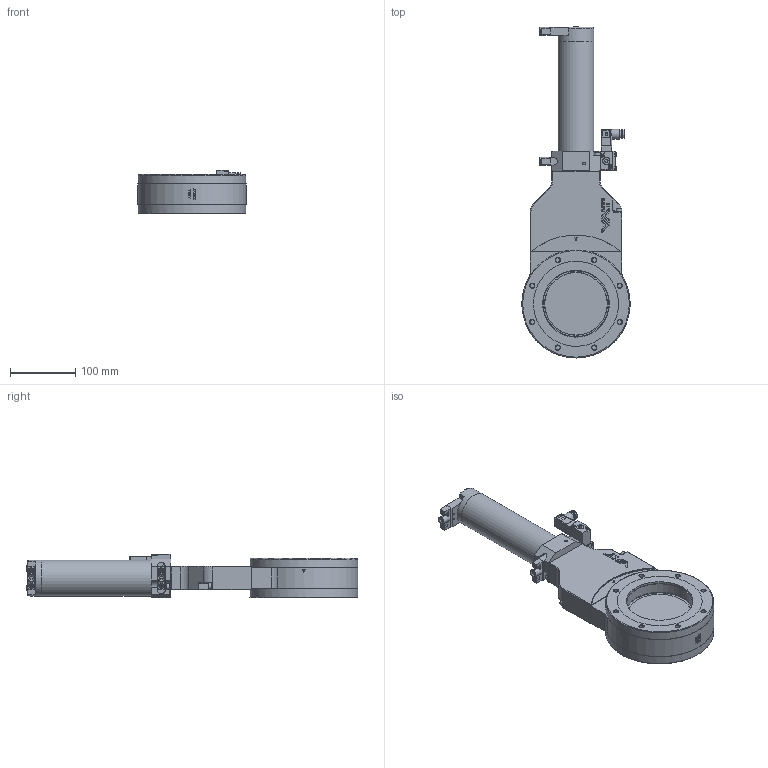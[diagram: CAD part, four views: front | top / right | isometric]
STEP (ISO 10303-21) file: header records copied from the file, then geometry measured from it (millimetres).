
FILE_DESCRIPTION(/* description */ (''),/* implementation_level */ '2;1');
FILE_NAME(/* name */ '1743098264_203.stp',/* time_stamp */ '2020-02-26T15:52:17+01:00',/* author */ (''),/* organization */ (''),/* preprocessor_version */ 'ST-DEVELOPER v16',/* originating_system */ 'SIEMENS PLM Software NX 11.0',/* authorisation */ '');
FILE_SCHEMA (('AP203_CONFIGURATION_CONTROLLED_3D_DESIGN_OF_MECHANICAL_PARTS_AND_ASSEMBLIES_MIM_LF { 1 0 10303 403 2 1 2}'));
Length unit declared in the file: millimetre
Products named in the file (52): N-8406-013_3.2; N-8406-013_2.1; 1013022; 258528; 258513.3; 258525; 73662-01.1; 202839_1.2; N-6121-039.1; N-6099-417.1; 92838-01_1.2; N-6121-027.2; 251093.3; 80477-01.1; N-7100-005_2.1; 92838-01_4.2; 80478-01.1; N-6195-007.2; 93115-01.1; 87105-01.1; 467882; 437235; 77379-01.1; T-9001-055.1; N-6016-478.2; 488704; 236270.2; 251289.1; 488875; N-7557-016_1.1; N-7557-018.1; N-7557-016_2.1; N-6024-524.1; N-5018-005.1; N-6005-466.1; N-6005-459.1; N-6005-452.1; n-6134-407; 246014.7; 245959.8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
Assembly tree (71 placements, depth 5):
  248454
    94800-r1.7_NX-ARRAGMNTKONFIG1
      N-5018-005.1  x2
      N-6024-524.1  x6
      N-7557-016_2.1
      N-7557-018.1
      N-7557-016_1.1
      N-7557-016_3.1_MODELNX-ARRAGMNTArrangement 1
        437235
        467882
    245959.8
    246014.7
    n-6134-407  x2
    N-6005-452.1
    N-6005-459.1
    N-6005-466.1  x2
    251089_NX-ARRAGMNT01_CLOSE HO Innenteile+Stange unterdrueckt
      488875  x2
      87090-R1.22_NX-ARRAGMNTunbetaetigt Hub 0mm (mit Feder)
        87105-01.1
        93115-01.1
        N-6195-007.2
        80478-01.1
        92838-01_4.2
        N-7100-005_2.1
        80477-01.1
      251092.4
        251093.3
        N-6121-027.2  x2
      251289.1
      87090-R1.22_NX-ARRAGMNTclose_213913 Hub 2,95mm (mit Feder)
        87105-01.1
        93115-01.1
        N-6195-007.2
        80478-01.1
        N-7100-005_2.1
        80477-01.1
        92838-01_1.2
      236270.2
      488704
    78855-r1.9_NX-ARRAGMNTLM mit allen Teilen, Produktionsmodell PCA  x2
      N-6016-478.2
      T-9001-055.1
      78856-R1.3
        N-6099-417.1  x2
        N-6121-039.1
        202839_1.2
        73662-01.1
        N-8406-013_1_1.4_NX-ARRAGMNTZUSAMMENST1
          N-8406-013_2.1
          202839_1.2
          N-8406-013_3.2
      77379-01.1
    915176_MODELNX-ARRAGMNTVERRIEGELT
      258538_NX-ARRAGMNTVERRIEGELT
        258525
        258513.3
        258528
        1013022
Bounding box: 165.6 x 507.7 x 66.3 mm (x, y, z)
Volume: 1331899 mm3; surface area: 376766.2 mm2
Topology: 71 solids, 71 shells, 2254 faces, 5869 edges, 3915 vertices
Faces by surface type: plane 1277, cylinder 608, cone 131, bspline 108, torus 73, extrusion 34, sphere 21, revolution 2
Full cylindrical faces by diameter (mm): 1.4 x4, 1.5 x4, 1.875 x2, 2 x4, 2.115 x8, 2.3 x2, 2.475 x6, 2.5 x6, 2.56 x2, 2.575 x2, 3 x15, 3.2 x2, 3.3 x2, 3.4 x4, 3.5 x13, 4 x2, 4.2 x11, 4.22 x1, 4.3 x2, 4.7 x4, 5 x17, 5.1 x3, 5.2 x4, 5.3 x2, 5.4 x1, 5.5 x6, 5.6 x2, 5.65 x2, 5.7 x2, 5.8 x4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
Entity records: 67217 total; most frequent: CARTESIAN_POINT 19769, ORIENTED_EDGE 8012, DIRECTION 7654, EDGE_CURVE 4006, VERTEX_POINT 2909, AXIS2_PLACEMENT_3D 2821, EDGE_LOOP 2242, VECTOR 2011
